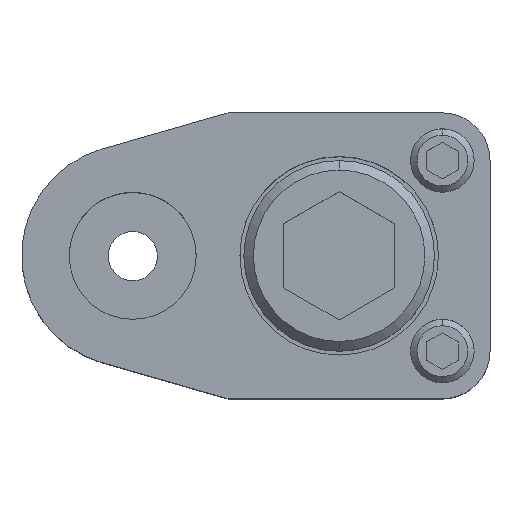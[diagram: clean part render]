
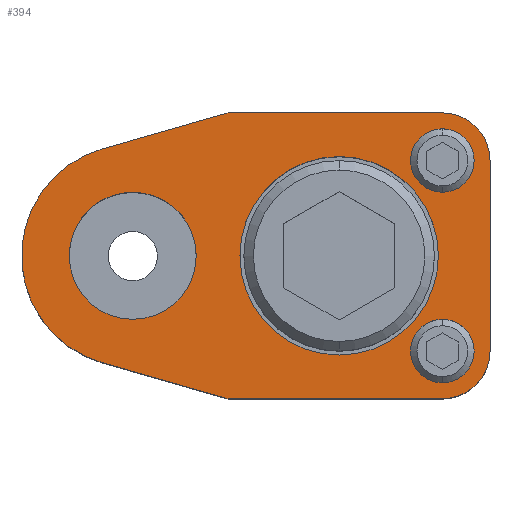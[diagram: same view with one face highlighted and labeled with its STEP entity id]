
A CAD part, top view. The second image highlights one B-rep face of the part: STEP entity #394.
In plain terms, the highlighted planar face has unit normal (0, 0, 1).
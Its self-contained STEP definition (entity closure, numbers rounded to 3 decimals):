
#196=FACE_BOUND('',#703,.T.);
#197=FACE_BOUND('',#704,.T.);
#198=FACE_BOUND('',#705,.T.);
#199=FACE_BOUND('',#706,.T.);
#200=FACE_BOUND('',#707,.T.);
#247=CIRCLE('',#2294,6.);
#250=CIRCLE('',#2300,6.);
#255=CIRCLE('',#2308,12.5);
#257=CIRCLE('',#2311,12.5);
#259=CIRCLE('',#2315,14.);
#260=CIRCLE('',#2316,4.);
#261=CIRCLE('',#2317,4.);
#262=CIRCLE('',#2318,4.);
#263=CIRCLE('',#2319,4.);
#264=CIRCLE('',#2320,8.);
#265=CIRCLE('',#2321,8.);
#394=ADVANCED_FACE('',(#196,#197,#198,#199,#200),#507,.T.);
#507=PLANE('',#2322);
#703=EDGE_LOOP('',(#985,#986,#987,#988,#989,#990,#991,#992));
#704=EDGE_LOOP('',(#993,#994));
#705=EDGE_LOOP('',(#995,#996));
#706=EDGE_LOOP('',(#997,#998));
#707=EDGE_LOOP('',(#999,#1000));
#985=ORIENTED_EDGE('',*,*,#1675,.T.);
#986=ORIENTED_EDGE('',*,*,#1679,.T.);
#987=ORIENTED_EDGE('',*,*,#1682,.T.);
#988=ORIENTED_EDGE('',*,*,#1702,.T.);
#989=ORIENTED_EDGE('',*,*,#1703,.T.);
#990=ORIENTED_EDGE('',*,*,#1704,.T.);
#991=ORIENTED_EDGE('',*,*,#1685,.T.);
#992=ORIENTED_EDGE('',*,*,#1689,.T.);
#993=ORIENTED_EDGE('',*,*,#1705,.F.);
#994=ORIENTED_EDGE('',*,*,#1706,.F.);
#995=ORIENTED_EDGE('',*,*,#1707,.F.);
#996=ORIENTED_EDGE('',*,*,#1708,.F.);
#997=ORIENTED_EDGE('',*,*,#1700,.F.);
#998=ORIENTED_EDGE('',*,*,#1696,.F.);
#999=ORIENTED_EDGE('',*,*,#1709,.T.);
#1000=ORIENTED_EDGE('',*,*,#1710,.T.);
#1458=VERTEX_POINT('',#3316);
#1459=VERTEX_POINT('',#3318);
#1462=VERTEX_POINT('',#3325);
#1464=VERTEX_POINT('',#3331);
#1466=VERTEX_POINT('',#3337);
#1467=VERTEX_POINT('',#3339);
#1473=VERTEX_POINT('',#3360);
#1474=VERTEX_POINT('',#3361);
#1477=VERTEX_POINT('',#3373);
#1478=VERTEX_POINT('',#3375);
#1479=VERTEX_POINT('',#3378);
#1480=VERTEX_POINT('',#3379);
#1481=VERTEX_POINT('',#3382);
#1482=VERTEX_POINT('',#3383);
#1483=VERTEX_POINT('',#3386);
#1484=VERTEX_POINT('',#3387);
#1675=EDGE_CURVE('',#1459,#1458,#1959,.T.);
#1679=EDGE_CURVE('',#1458,#1462,#247,.T.);
#1682=EDGE_CURVE('',#1462,#1464,#1964,.T.);
#1685=EDGE_CURVE('',#1467,#1466,#1967,.T.);
#1689=EDGE_CURVE('',#1466,#1459,#250,.T.);
#1696=EDGE_CURVE('',#1473,#1474,#255,.T.);
#1700=EDGE_CURVE('',#1474,#1473,#257,.T.);
#1702=EDGE_CURVE('',#1464,#1477,#1974,.T.);
#1703=EDGE_CURVE('',#1477,#1478,#259,.T.);
#1704=EDGE_CURVE('',#1478,#1467,#1975,.T.);
#1705=EDGE_CURVE('',#1479,#1480,#260,.T.);
#1706=EDGE_CURVE('',#1480,#1479,#261,.T.);
#1707=EDGE_CURVE('',#1481,#1482,#262,.T.);
#1708=EDGE_CURVE('',#1482,#1481,#263,.T.);
#1709=EDGE_CURVE('',#1483,#1484,#264,.T.);
#1710=EDGE_CURVE('',#1484,#1483,#265,.T.);
#1959=LINE('',#3317,#2127);
#1964=LINE('',#3332,#2132);
#1967=LINE('',#3338,#2135);
#1974=LINE('',#3372,#2142);
#1975=LINE('',#3376,#2143);
#2127=VECTOR('',#2644,1.);
#2132=VECTOR('',#2657,1.);
#2135=VECTOR('',#2662,1.);
#2142=VECTOR('',#2703,1.);
#2143=VECTOR('',#2706,1.);
#2294=AXIS2_PLACEMENT_3D('',#3326,#2650,#2651);
#2300=AXIS2_PLACEMENT_3D('',#3345,#2669,#2670);
#2308=AXIS2_PLACEMENT_3D('',#3359,#2687,#2688);
#2311=AXIS2_PLACEMENT_3D('',#3368,#2695,#2696);
#2315=AXIS2_PLACEMENT_3D('',#3374,#2704,#2705);
#2316=AXIS2_PLACEMENT_3D('',#3377,#2707,#2708);
#2317=AXIS2_PLACEMENT_3D('',#3380,#2709,#2710);
#2318=AXIS2_PLACEMENT_3D('',#3381,#2711,#2712);
#2319=AXIS2_PLACEMENT_3D('',#3384,#2713,#2714);
#2320=AXIS2_PLACEMENT_3D('',#3385,#2715,#2716);
#2321=AXIS2_PLACEMENT_3D('',#3388,#2717,#2718);
#2322=AXIS2_PLACEMENT_3D('',#3389,#2719,#2720);
#2644=DIRECTION('',(0.,1.,0.));
#2650=DIRECTION('',(0.,0.,1.));
#2651=DIRECTION('',(-0.707,-0.707,0.));
#2657=DIRECTION('',(-1.,0.,0.));
#2662=DIRECTION('',(1.,0.,0.));
#2669=DIRECTION('',(0.,0.,1.));
#2670=DIRECTION('',(-0.707,0.707,0.));
#2687=DIRECTION('',(0.,0.,1.));
#2688=DIRECTION('',(-1.,0.,0.));
#2695=DIRECTION('',(0.,0.,1.));
#2696=DIRECTION('',(1.,0.,0.));
#2703=DIRECTION('',(-0.961,-0.275,0.));
#2704=DIRECTION('',(0.,0.,1.));
#2705=DIRECTION('',(0.,1.,0.));
#2706=DIRECTION('',(0.961,-0.275,0.));
#2707=DIRECTION('',(0.,0.,1.));
#2708=DIRECTION('',(-1.,0.,0.));
#2709=DIRECTION('',(0.,0.,1.));
#2710=DIRECTION('',(1.,0.,0.));
#2711=DIRECTION('',(0.,0.,1.));
#2712=DIRECTION('',(-1.,0.,0.));
#2713=DIRECTION('',(0.,0.,1.));
#2714=DIRECTION('',(1.,0.,0.));
#2715=DIRECTION('',(0.,0.,-1.));
#2716=DIRECTION('',(-1.,0.,0.));
#2717=DIRECTION('',(0.,0.,-1.));
#2718=DIRECTION('',(1.,0.,0.));
#2719=DIRECTION('',(0.,0.,1.));
#2720=DIRECTION('',(0.,-1.,0.));
#3316=CARTESIAN_POINT('',(45.,12.,30.));
#3317=CARTESIAN_POINT('',(45.,-12.,30.));
#3318=CARTESIAN_POINT('',(45.,-12.,30.));
#3325=CARTESIAN_POINT('',(39.,18.,30.));
#3326=CARTESIAN_POINT('',(39.,12.,30.));
#3331=CARTESIAN_POINT('',(12.,18.,30.));
#3332=CARTESIAN_POINT('',(12.,18.,30.));
#3337=CARTESIAN_POINT('',(39.,-18.,30.));
#3338=CARTESIAN_POINT('',(12.,-18.,30.));
#3339=CARTESIAN_POINT('',(12.,-18.,30.));
#3345=CARTESIAN_POINT('',(39.,-12.,30.));
#3359=CARTESIAN_POINT('',(26.,0.,30.));
#3360=CARTESIAN_POINT('',(26.,-12.5,30.));
#3361=CARTESIAN_POINT('',(26.,12.5,30.));
#3368=CARTESIAN_POINT('',(26.,0.,30.));
#3372=CARTESIAN_POINT('',(12.,18.,30.));
#3373=CARTESIAN_POINT('',(-3.855,13.459,30.));
#3374=CARTESIAN_POINT('',(0.,0.,30.));
#3375=CARTESIAN_POINT('',(-3.855,-13.459,30.));
#3376=CARTESIAN_POINT('',(12.,-18.,30.));
#3377=CARTESIAN_POINT('',(39.,-12.,30.));
#3378=CARTESIAN_POINT('',(39.,-16.,30.));
#3379=CARTESIAN_POINT('',(39.,-8.,30.));
#3380=CARTESIAN_POINT('',(39.,-12.,30.));
#3381=CARTESIAN_POINT('',(39.,12.,30.));
#3382=CARTESIAN_POINT('',(39.,8.,30.));
#3383=CARTESIAN_POINT('',(39.,16.,30.));
#3384=CARTESIAN_POINT('',(39.,12.,30.));
#3385=CARTESIAN_POINT('',(0.,0.,30.));
#3386=CARTESIAN_POINT('',(0.,8.,30.));
#3387=CARTESIAN_POINT('',(0.,-8.,30.));
#3388=CARTESIAN_POINT('',(0.,0.,30.));
#3389=CARTESIAN_POINT('',(45.,-12.,30.));
